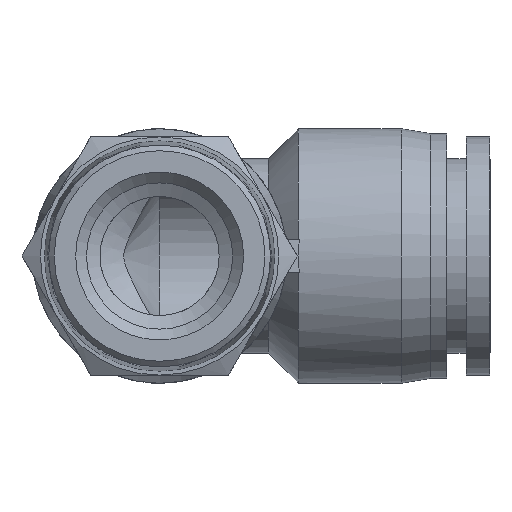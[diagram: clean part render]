
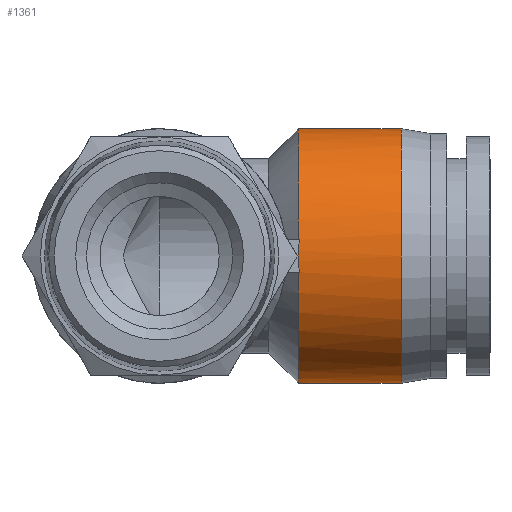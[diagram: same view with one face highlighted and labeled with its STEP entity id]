
A CAD part, front view. The second image highlights one B-rep face of the part: STEP entity #1361.
In plain terms, the highlighted cylindrical face has radius 11.75 mm (diameter 23.5 mm), a full revolution.
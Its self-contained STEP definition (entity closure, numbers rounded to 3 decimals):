
#141=CARTESIAN_POINT('',(12.896,-11.654,1.5));
#142=VERTEX_POINT('',#141);
#143=CARTESIAN_POINT('',(12.896,-11.654,-1.5));
#144=VERTEX_POINT('',#143);
#145=CARTESIAN_POINT('',(24.55,0.0,0.0));
#146=DIRECTION('',(0.707,-0.707,0.0));
#147=DIRECTION('',(0.707,0.707,0.0));
#148=AXIS2_PLACEMENT_3D('',#145,#146,#147);
#149=ELLIPSE('',#148,16.617,11.75);
#150=EDGE_CURVE('',#142,#144,#149,.T.);
#183=CARTESIAN_POINT('',(12.8,-11.654,1.5));
#184=VERTEX_POINT('',#183);
#185=CARTESIAN_POINT('',(12.8,-11.654,1.5));
#186=DIRECTION('',(1.0,0.0,0.0));
#187=VECTOR('',#186,0.096);
#188=LINE('',#185,#187);
#189=EDGE_CURVE('',#184,#142,#188,.T.);
#252=CARTESIAN_POINT('',(12.8,-11.654,-1.5));
#253=VERTEX_POINT('',#252);
#254=CARTESIAN_POINT('',(12.896,-11.654,-1.5));
#255=DIRECTION('',(-1.0,0.0,0.0));
#256=VECTOR('',#255,0.096);
#257=LINE('',#254,#256);
#258=EDGE_CURVE('',#144,#253,#257,.T.);
#1329=CARTESIAN_POINT('',(12.8,0.0,0.0));
#1330=DIRECTION('',(1.0,0.0,0.0));
#1331=DIRECTION('',(0.0,1.0,0.0));
#1332=AXIS2_PLACEMENT_3D('',#1329,#1330,#1331);
#1333=CIRCLE('',#1332,11.75);
#1334=EDGE_CURVE('',#253,#184,#1333,.T.);
#1339=CARTESIAN_POINT('',(17.55,0.0,0.0));
#1340=DIRECTION('',(1.0,0.0,0.0));
#1341=DIRECTION('',(0.0,1.0,0.0));
#1342=AXIS2_PLACEMENT_3D('',#1339,#1340,#1341);
#1343=CYLINDRICAL_SURFACE('',#1342,11.75);
#1344=ORIENTED_EDGE('',*,*,#258,.T.);
#1345=ORIENTED_EDGE('',*,*,#1334,.T.);
#1346=ORIENTED_EDGE('',*,*,#189,.T.);
#1347=ORIENTED_EDGE('',*,*,#150,.T.);
#1348=EDGE_LOOP('',(#1344,#1345,#1346,#1347));
#1349=FACE_OUTER_BOUND('',#1348,.T.);
#1350=CARTESIAN_POINT('',(22.3,11.75,0.0));
#1351=VERTEX_POINT('',#1350);
#1352=CARTESIAN_POINT('',(22.3,0.0,0.0));
#1353=DIRECTION('',(1.0,0.0,0.0));
#1354=DIRECTION('',(0.0,1.0,0.0));
#1355=AXIS2_PLACEMENT_3D('',#1352,#1353,#1354);
#1356=CIRCLE('',#1355,11.75);
#1357=EDGE_CURVE('',#1351,#1351,#1356,.T.);
#1358=ORIENTED_EDGE('',*,*,#1357,.F.);
#1359=EDGE_LOOP('',(#1358));
#1360=FACE_BOUND('',#1359,.T.);
#1361=ADVANCED_FACE('',(#1349,#1360),#1343,.T.);
